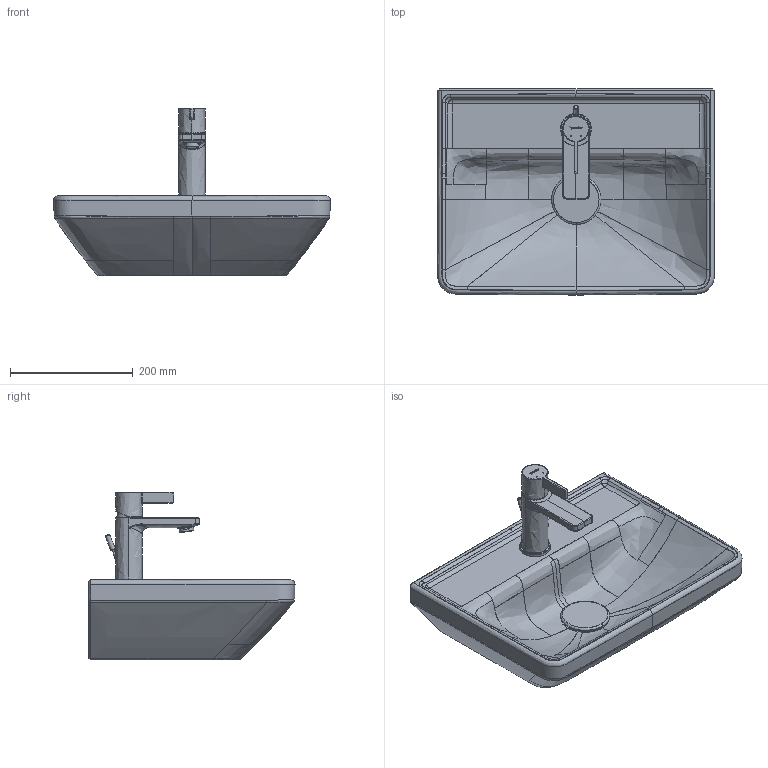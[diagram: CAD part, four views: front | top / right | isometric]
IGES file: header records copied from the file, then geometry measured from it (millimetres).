
Global section: file name: d:\users\matthias.isele\Desktop\planungsdaten_erstellen\Keramik\D-Neo\073845\073845.igs; native system: Rhinoceros ( Sep 13 2016 ); preprocessor: Trout Lake IGES 012 Sep 13 2016; date: 210621.063652; units: millimetre
Bounding box: 450.1 x 335.05 x 272.88 mm (x, y, z)
Surface area: 577596.6 mm2 (no closed solid volume)
Topology: 0 solids, 0 shells, 497 faces, 4693 edges, 4684 vertices
Faces by surface type: bspline 497
